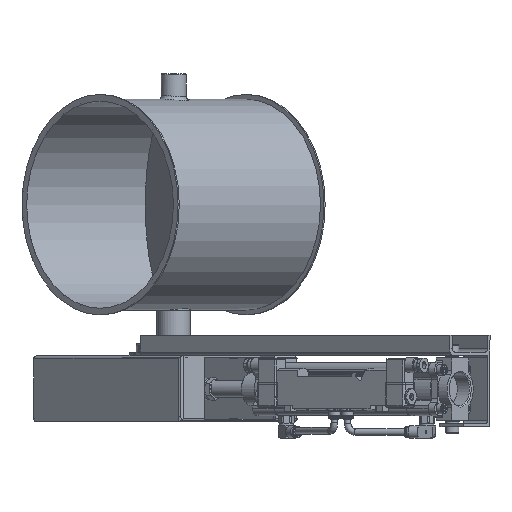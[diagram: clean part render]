
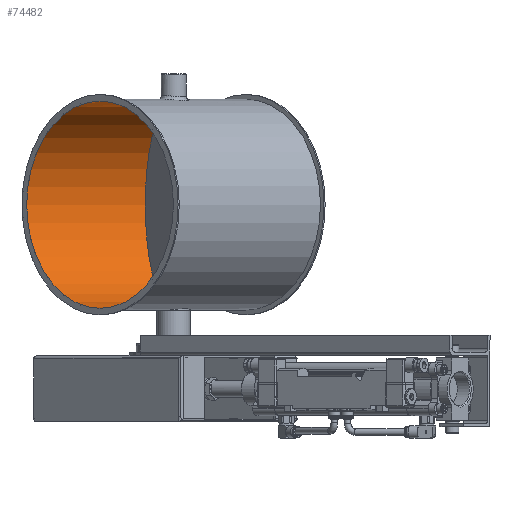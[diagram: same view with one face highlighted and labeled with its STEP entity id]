
A CAD part, front view. The second image highlights one B-rep face of the part: STEP entity #74482.
In plain terms, the highlighted cylindrical face has radius 124.5 mm (diameter 249 mm), a full revolution.
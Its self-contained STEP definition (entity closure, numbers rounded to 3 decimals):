
#74373=CARTESIAN_POINT('',(0.0,0.0,250.0));
#74374=DIRECTION('',(0.0,0.0,-1.0));
#74375=DIRECTION('',(-1.0,0.0,0.0));
#74376=AXIS2_PLACEMENT_3D('',#74373,#74374,#74375);
#74377=CYLINDRICAL_SURFACE('',#74376,124.5);
#74378=CARTESIAN_POINT('',(124.5,0.,0.0));
#74379=VERTEX_POINT('',#74378);
#74380=CARTESIAN_POINT('',(0.0,0.0,0.0));
#74381=DIRECTION('',(0.0,0.0,1.0));
#74382=DIRECTION('',(-1.0,0.0,0.0));
#74383=AXIS2_PLACEMENT_3D('',#74380,#74381,#74382);
#74384=CIRCLE('',#74383,124.5);
#74385=EDGE_CURVE('',#74379,#74379,#74384,.T.);
#74386=ORIENTED_EDGE('',*,*,#74385,.F.);
#74387=EDGE_LOOP('',(#74386));
#74388=FACE_OUTER_BOUND('',#74387,.T.);
#74389=CARTESIAN_POINT('',(-124.098,10.0,125.));
#74390=VERTEX_POINT('',#74389);
#74391=CARTESIAN_POINT('',(-124.098,10.0,125.));
#74392=CARTESIAN_POINT('',(-124.098,10.,126.256));
#74393=CARTESIAN_POINT('',(-124.119,9.749,127.596));
#74394=CARTESIAN_POINT('',(-124.195,8.728,130.059));
#74395=CARTESIAN_POINT('',(-124.249,7.959,131.184));
#74396=CARTESIAN_POINT('',(-124.35,6.184,132.959));
#74397=CARTESIAN_POINT('',(-124.403,5.059,133.728));
#74398=CARTESIAN_POINT('',(-124.479,2.596,134.749));
#74399=CARTESIAN_POINT('',(-124.5,1.256,135.0));
#74400=CARTESIAN_POINT('',(-124.5,-1.256,135.0));
#74401=CARTESIAN_POINT('',(-124.479,-2.596,134.749));
#74402=CARTESIAN_POINT('',(-124.403,-5.059,133.728));
#74403=CARTESIAN_POINT('',(-124.35,-6.184,132.959));
#74404=CARTESIAN_POINT('',(-124.249,-7.959,131.184));
#74405=CARTESIAN_POINT('',(-124.195,-8.728,130.059));
#74406=CARTESIAN_POINT('',(-124.119,-9.749,127.596));
#74407=CARTESIAN_POINT('',(-124.098,-10.,126.256));
#74408=CARTESIAN_POINT('',(-124.098,-10.,123.744));
#74409=CARTESIAN_POINT('',(-124.119,-9.749,122.404));
#74410=CARTESIAN_POINT('',(-124.195,-8.728,119.941));
#74411=CARTESIAN_POINT('',(-124.249,-7.959,118.816));
#74412=CARTESIAN_POINT('',(-124.35,-6.184,117.041));
#74413=CARTESIAN_POINT('',(-124.403,-5.059,116.272));
#74414=CARTESIAN_POINT('',(-124.479,-2.596,115.251));
#74415=CARTESIAN_POINT('',(-124.5,-1.256,115.0));
#74416=CARTESIAN_POINT('',(-124.5,1.256,115.0));
#74417=CARTESIAN_POINT('',(-124.479,2.596,115.251));
#74418=CARTESIAN_POINT('',(-124.403,5.059,116.272));
#74419=CARTESIAN_POINT('',(-124.35,6.184,117.041));
#74420=CARTESIAN_POINT('',(-124.249,7.959,118.816));
#74421=CARTESIAN_POINT('',(-124.195,8.728,119.941));
#74422=CARTESIAN_POINT('',(-124.119,9.749,122.404));
#74423=CARTESIAN_POINT('',(-124.098,10.,123.744));
#74424=CARTESIAN_POINT('',(-124.098,10.0,125.));
#74425=B_SPLINE_CURVE_WITH_KNOTS('',3,(#74391,#74392,#74393,#74394,#74395,#74396,#74397,#74398,#74399,#74400,#74401,#74402,#74403,#74404,#74405,#74406,#74407,#74408,#74409,#74410,#74411,#74412,#74413,#74414,#74415,#74416,#74417,#74418,#74419,#74420,#74421,#74422,#74423,#74424),.UNSPECIFIED.,.T.,.U.,(4,2,2,2,2,2,2,2,2,2,2,2,2,2,2,2,4),(0.0,0.377,0.754,1.131,1.507,1.884,2.261,2.638,3.015,3.392,3.769,4.145,4.522,4.899,5.276,5.653,6.03),.UNSPECIFIED.);
#74426=EDGE_CURVE('',#74390,#74390,#74425,.T.);
#74427=ORIENTED_EDGE('',*,*,#74426,.F.);
#74428=EDGE_LOOP('',(#74427));
#74429=FACE_BOUND('',#74428,.T.);
#74430=CARTESIAN_POINT('',(124.098,10.,125.));
#74431=VERTEX_POINT('',#74430);
#74432=CARTESIAN_POINT('',(124.098,10.,125.));
#74433=CARTESIAN_POINT('',(124.098,10.,123.744));
#74434=CARTESIAN_POINT('',(124.119,9.749,122.404));
#74435=CARTESIAN_POINT('',(124.195,8.728,119.941));
#74436=CARTESIAN_POINT('',(124.249,7.959,118.816));
#74437=CARTESIAN_POINT('',(124.35,6.184,117.041));
#74438=CARTESIAN_POINT('',(124.403,5.059,116.272));
#74439=CARTESIAN_POINT('',(124.479,2.596,115.251));
#74440=CARTESIAN_POINT('',(124.5,1.256,115.0));
#74441=CARTESIAN_POINT('',(124.5,-1.256,115.0));
#74442=CARTESIAN_POINT('',(124.479,-2.596,115.251));
#74443=CARTESIAN_POINT('',(124.403,-5.059,116.272));
#74444=CARTESIAN_POINT('',(124.35,-6.184,117.041));
#74445=CARTESIAN_POINT('',(124.249,-7.959,118.816));
#74446=CARTESIAN_POINT('',(124.195,-8.728,119.941));
#74447=CARTESIAN_POINT('',(124.119,-9.749,122.404));
#74448=CARTESIAN_POINT('',(124.098,-10.,123.744));
#74449=CARTESIAN_POINT('',(124.098,-10.,126.256));
#74450=CARTESIAN_POINT('',(124.119,-9.749,127.596));
#74451=CARTESIAN_POINT('',(124.195,-8.728,130.059));
#74452=CARTESIAN_POINT('',(124.249,-7.959,131.184));
#74453=CARTESIAN_POINT('',(124.35,-6.184,132.959));
#74454=CARTESIAN_POINT('',(124.403,-5.059,133.728));
#74455=CARTESIAN_POINT('',(124.479,-2.596,134.749));
#74456=CARTESIAN_POINT('',(124.5,-1.256,135.0));
#74457=CARTESIAN_POINT('',(124.5,1.256,135.0));
#74458=CARTESIAN_POINT('',(124.479,2.596,134.749));
#74459=CARTESIAN_POINT('',(124.403,5.059,133.728));
#74460=CARTESIAN_POINT('',(124.35,6.184,132.959));
#74461=CARTESIAN_POINT('',(124.249,7.959,131.184));
#74462=CARTESIAN_POINT('',(124.195,8.728,130.059));
#74463=CARTESIAN_POINT('',(124.119,9.749,127.596));
#74464=CARTESIAN_POINT('',(124.098,10.,126.256));
#74465=CARTESIAN_POINT('',(124.098,10.,125.));
#74466=B_SPLINE_CURVE_WITH_KNOTS('',3,(#74432,#74433,#74434,#74435,#74436,#74437,#74438,#74439,#74440,#74441,#74442,#74443,#74444,#74445,#74446,#74447,#74448,#74449,#74450,#74451,#74452,#74453,#74454,#74455,#74456,#74457,#74458,#74459,#74460,#74461,#74462,#74463,#74464,#74465),.UNSPECIFIED.,.T.,.U.,(4,2,2,2,2,2,2,2,2,2,2,2,2,2,2,2,4),(0.0,0.377,0.754,1.131,1.507,1.884,2.261,2.638,3.015,3.392,3.769,4.145,4.522,4.899,5.276,5.653,6.03),.UNSPECIFIED.);
#74467=EDGE_CURVE('',#74431,#74431,#74466,.T.);
#74468=ORIENTED_EDGE('',*,*,#74467,.F.);
#74469=EDGE_LOOP('',(#74468));
#74470=FACE_BOUND('',#74469,.T.);
#74471=CARTESIAN_POINT('',(124.5,0.,250.0));
#74472=VERTEX_POINT('',#74471);
#74473=CARTESIAN_POINT('',(0.0,0.0,250.0));
#74474=DIRECTION('',(0.0,0.0,-1.0));
#74475=DIRECTION('',(-1.0,0.0,0.0));
#74476=AXIS2_PLACEMENT_3D('',#74473,#74474,#74475);
#74477=CIRCLE('',#74476,124.5);
#74478=EDGE_CURVE('',#74472,#74472,#74477,.T.);
#74479=ORIENTED_EDGE('',*,*,#74478,.F.);
#74480=EDGE_LOOP('',(#74479));
#74481=FACE_BOUND('',#74480,.T.);
#74482=ADVANCED_FACE('',(#74388,#74429,#74470,#74481),#74377,.F.);
